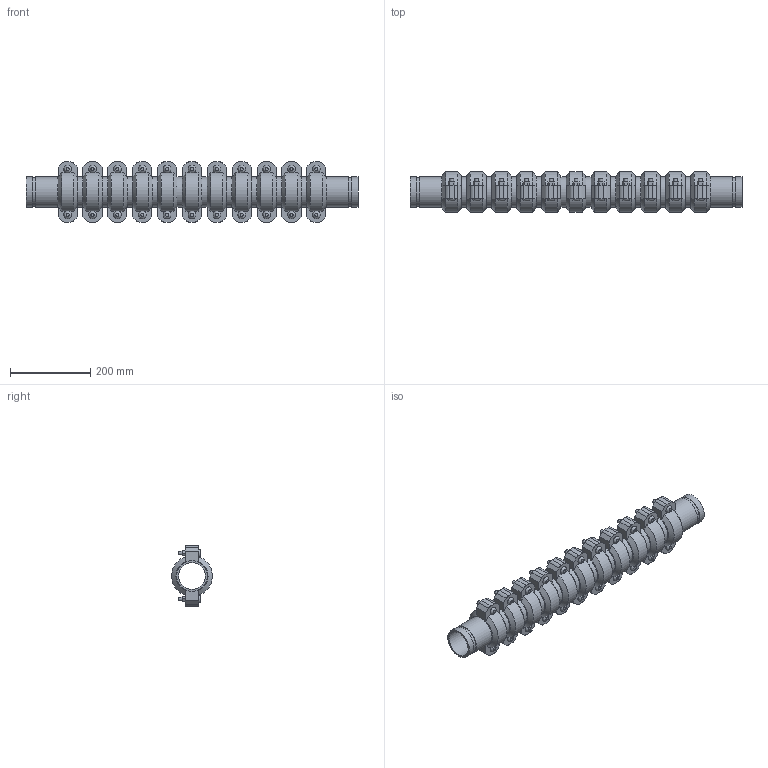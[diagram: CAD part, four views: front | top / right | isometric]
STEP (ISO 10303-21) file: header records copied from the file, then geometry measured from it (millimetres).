
FILE_DESCRIPTION(/* description */ ('VIC EXPANSION JOINT 11 COUPLINGS EXPANDED STYLE 155 (OGS)','CAx-IF Rec.Pracs.---Representation and Presentation of Product Manufacturing Information (PMI)---4.0---2014-10-13'),/* implementation_level */ '2;1');
FILE_NAME(/* name */ 'C:\Users\kkamble\AppData\Roaming\Autodesk\ApplicationPlugins\Victaulic.Temp\A474\Victaulic_IPS_Expansion Joint_Expanded_11 Couplings_Style 155 (OGS)_02.5 (76.1) (65).stp',/* time_stamp */ '2021-06-26T23:51:56+02:00',/* author */ ('kkamble'),/* organization */ ('Victaulic'),/* preprocessor_version */ 'ST-DEVELOPER v17.2',/* originating_system */ 'Autodesk Inventor 2019',/* authorisation */ '');
FILE_SCHEMA (('AP242_MANAGED_MODEL_BASED_3D_ENGINEERING_MIM_LF { 1 0 10303 442 1 1 4 }'));
Length unit declared in the file: inch
Products named in the file (4): 155-02.5 (76.1); Nipple-02.5 (76.1); Nipple-02.5 (76.1)_1; 075-02.5 (76.1)
Assembly tree (23 placements, depth 2):
  155-02.5 (76.1)
    Nipple-02.5 (76.1)  x2
    Nipple-02.5 (76.1)_1  x10
    075-02.5 (76.1)  x11
Bounding box: 827.28 x 101.25 x 149.86 mm (x, y, z)
Volume: 3212336.2 mm3; surface area: 908217.1 mm2
Topology: 23 solids, 45 shells, 771 faces, 1867 edges, 1300 vertices
Faces by surface type: plane 468, cylinder 237, cone 44, bspline 22
Full cylindrical faces by diameter (mm): 9.525 x44, 11.43 x22, 66.65 x12, 69.85 x11, 72.263 x24, 76.2 x58
Entity records: 2947 total; most frequent: CARTESIAN_POINT 539, DIRECTION 491, ORIENTED_EDGE 394, AXIS2_PLACEMENT_3D 198, EDGE_CURVE 197, VERTEX_POINT 140, EDGE_LOOP 105, LINE 95
